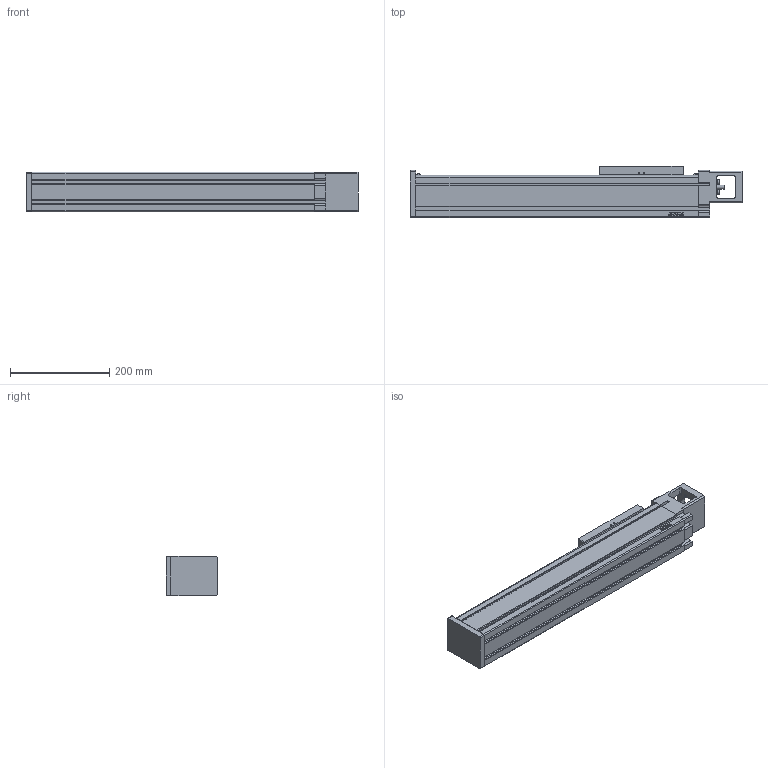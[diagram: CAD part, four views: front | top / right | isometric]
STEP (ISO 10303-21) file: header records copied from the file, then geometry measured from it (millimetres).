
FILE_DESCRIPTION(/* description */ (''),/* implementation_level */ '2;1');
FILE_NAME(/* name */ 'D:\混合母檔20191031\混和母檔\混和母檔\bin\Debug\Download\3D\KU80-20C-350AF0\KU80-20C-350AF0.stp',/* time_stamp */ '2019-11-04T17:20:09+08:00',/* author */ ('user'),/* organization */ (''),/* preprocessor_version */ 'ST-DEVELOPER v16.13',/* originating_system */ 'Autodesk Inventor 2018',/* authorisation */ '');
FILE_SCHEMA (('AUTOMOTIVE_DESIGN { 1 0 10303 214 3 1 1 }'));
Length unit declared in the file: millimetre
Products named in the file (3): KU80-20C-350AF0; KU80-F0-BP; KU80-SL
Assembly tree (2 placements, depth 2):
  KU80-20C-350AF0
    KU80-F0-BP
    KU80-SL
Bounding box: 670 x 103 x 80 mm (x, y, z)
Volume: 4212882.4 mm3; surface area: 380443.7 mm2
Topology: 2 solids, 10 shells, 862 faces, 2315 edges, 1508 vertices
Faces by surface type: plane 509, bspline 136, cylinder 104, cone 81, torus 28, sphere 4
Full cylindrical faces by diameter (mm): 2.459 x4, 2.729 x4, 3 x4, 3.242 x4, 3.5 x4, 4.134 x16, 5 x4, 5.5 x8, 5.6 x2, 8 x1, 8.5 x4, 12 x1, 46.5 x1
Entity records: 27990 total; most frequent: CARTESIAN_POINT 7413, ORIENTED_EDGE 4362, DIRECTION 3790, EDGE_CURVE 2181, VERTEX_POINT 1469, LINE 1298, VECTOR 1298, AXIS2_PLACEMENT_3D 1246
